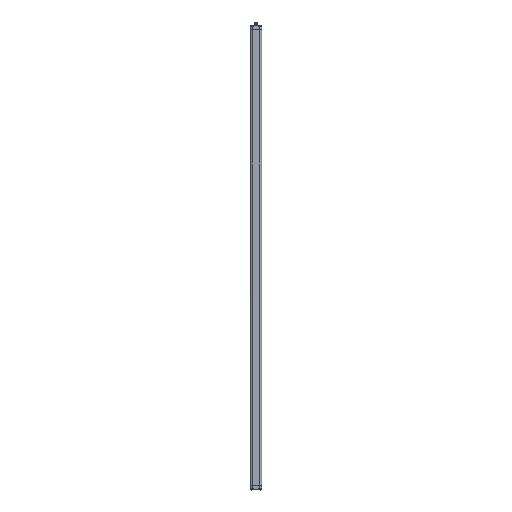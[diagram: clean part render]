
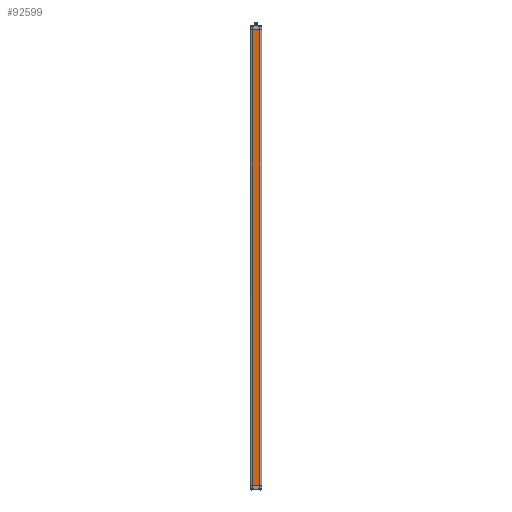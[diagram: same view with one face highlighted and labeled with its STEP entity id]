
A CAD part, top view. The second image highlights one B-rep face of the part: STEP entity #92599.
In plain terms, the highlighted planar face has unit normal (0, 0, 1).
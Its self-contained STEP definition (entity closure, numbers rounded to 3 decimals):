
#2321=DIRECTION('',(-1.,0.,0.));
#2322=VECTOR('',#2321,22.);
#2323=CARTESIAN_POINT('',(28.5,0.,
40.));
#2324=LINE('',#2323,#2322);
#2328=DIRECTION('',(0.,1.,0.));
#2329=VECTOR('',#2328,1395.2);
#2330=CARTESIAN_POINT('',(6.5,0.,
40.));
#2331=LINE('',#2330,#2329);
#2335=DIRECTION('',(1.,0.,0.));
#2336=VECTOR('',#2335,22.);
#2337=CARTESIAN_POINT('',(6.5,1395.2,40.));
#2338=LINE('',#2337,#2336);
#2342=CARTESIAN_POINT('',(6.5,0.,
40.));
#4034=CARTESIAN_POINT('',(28.5,0.,
40.));
#4039=DIRECTION('',(0.,1.,0.));
#4040=VECTOR('',#4039,1395.2);
#4041=CARTESIAN_POINT('',(28.5,0.,
40.));
#4042=LINE('',#4041,#4040);
#86451=CARTESIAN_POINT('',(6.5,1395.2,40.));
#86453=VERTEX_POINT('',#86451);
#86479=CARTESIAN_POINT('',(28.5,1395.2,40.));
#86481=VERTEX_POINT('',#86479);
#87687=VERTEX_POINT('',#4034);
#87713=VERTEX_POINT('',#2342);
#92585=CARTESIAN_POINT('',(6.5,0.,40.));
#92586=DIRECTION('',(0.,0.,1.));
#92587=DIRECTION('',(1.,0.,0.));
#92588=AXIS2_PLACEMENT_3D('',#92585,#92586,#92587);
#92589=PLANE('',#92588);
#92590=ORIENTED_EDGE('',*,*,#92564,.T.);
#92592=ORIENTED_EDGE('',*,*,#92591,.T.);
#92594=ORIENTED_EDGE('',*,*,#92593,.T.);
#92596=ORIENTED_EDGE('',*,*,#92595,.F.);
#92597=EDGE_LOOP('',(#92590,#92592,#92594,#92596));
#92598=FACE_OUTER_BOUND('',#92597,.F.);
#92599=ADVANCED_FACE('',(#92598),#92589,.T.);
#92564=EDGE_CURVE('',#87687,#87713,#2324,.T.);
#92591=EDGE_CURVE('',#87713,#86453,#2331,.T.);
#92593=EDGE_CURVE('',#86453,#86481,#2338,.T.);
#92595=EDGE_CURVE('',#87687,#86481,#4042,.T.);
